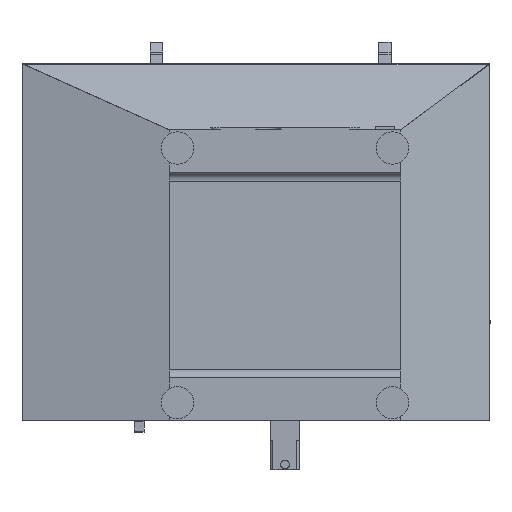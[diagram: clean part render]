
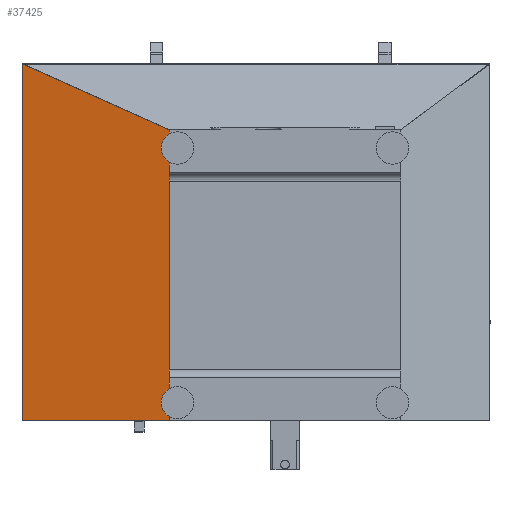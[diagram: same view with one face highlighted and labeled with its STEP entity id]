
A CAD part, front view. The second image highlights one B-rep face of the part: STEP entity #37425.
In plain terms, the highlighted planar face has unit normal (-0.198, -0.98, 0) as drawn and (-0.198, 0, -0.98) by its records, which use the part's own axes.
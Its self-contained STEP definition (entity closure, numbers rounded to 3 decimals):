
#426 = LINE ( 'NONE', #27926, #8566 ) ;
#1921 = CARTESIAN_POINT ( 'NONE',  ( -960., -999., 95. ) ) ;
#4953 = VECTOR ( 'NONE', #22735, 1000. ) ;
#5556 = FACE_OUTER_BOUND ( 'NONE', #34139, .T. ) ;
#8566 = VECTOR ( 'NONE', #30878, 1000. ) ;
#10622 = DIRECTION ( 'NONE',  ( -0.98, 0., 0.198 ) ) ;
#11849 = ORIENTED_EDGE ( 'NONE', *, *, #35308, .F. ) ;
#16748 = VERTEX_POINT ( 'NONE', #1921 ) ;
#18207 = VERTEX_POINT ( 'NONE', #42968 ) ;
#18880 = CARTESIAN_POINT ( 'NONE',  ( -515., 81., 5. ) ) ;
#19545 = DIRECTION ( 'NONE',  ( 0., -1., 0. ) ) ;
#20588 = ORIENTED_EDGE ( 'NONE', *, *, #25415, .F. ) ;
#21639 = CARTESIAN_POINT ( 'NONE',  ( -515., -682.715, 5. ) ) ;
#22202 = DIRECTION ( 'NONE',  ( 0.897, 0.403, -0.181 ) ) ;
#22735 = DIRECTION ( 'NONE',  ( 0., 1., 0. ) ) ;
#25415 = EDGE_CURVE ( 'NONE', #16748, #18207, #31590, .T. ) ;
#27926 = CARTESIAN_POINT ( 'NONE',  ( -515., 81., 5. ) ) ;
#28175 = LINE ( 'NONE', #40452, #4953 ) ;
#28432 = AXIS2_PLACEMENT_3D ( 'NONE', #21639, #32659, #10622 ) ;
#30878 = DIRECTION ( 'NONE',  ( -0.98, 0., 0.198 ) ) ;
#31119 = VERTEX_POINT ( 'NONE', #18880 ) ;
#31590 = LINE ( 'NONE', #47793, #45940 ) ;
#31699 = CARTESIAN_POINT ( 'NONE',  ( -960., 81., 95. ) ) ;
#32218 = EDGE_CURVE ( 'NONE', #42368, #16748, #44534, .T. ) ;
#32659 = DIRECTION ( 'NONE',  ( -0.198, 0., -0.98 ) ) ;
#33048 = VECTOR ( 'NONE', #19545, 1000. ) ;
#34139 = EDGE_LOOP ( 'NONE', ( #11849, #20588, #36853, #38728 ) ) ;
#35308 = EDGE_CURVE ( 'NONE', #18207, #31119, #28175, .T. ) ;
#36197 = PLANE ( 'NONE',  #28432 ) ;
#36853 = ORIENTED_EDGE ( 'NONE', *, *, #32218, .F. ) ;
#37425 = ADVANCED_FACE ( 'NONE', ( #5556 ), #36197, .T. ) ;
#37929 = CARTESIAN_POINT ( 'NONE',  ( -960., 81., 95. ) ) ;
#38728 = ORIENTED_EDGE ( 'NONE', *, *, #47109, .F. ) ;
#40452 = CARTESIAN_POINT ( 'NONE',  ( -515., -682.715, 5. ) ) ;
#42368 = VERTEX_POINT ( 'NONE', #31699 ) ;
#42968 = CARTESIAN_POINT ( 'NONE',  ( -515., -799., 5. ) ) ;
#44534 = LINE ( 'NONE', #37929, #33048 ) ;
#45940 = VECTOR ( 'NONE', #22202, 1000. ) ;
#47109 = EDGE_CURVE ( 'NONE', #31119, #42368, #426, .T. ) ;
#47793 = CARTESIAN_POINT ( 'NONE',  ( -960., -999., 95. ) ) ;
